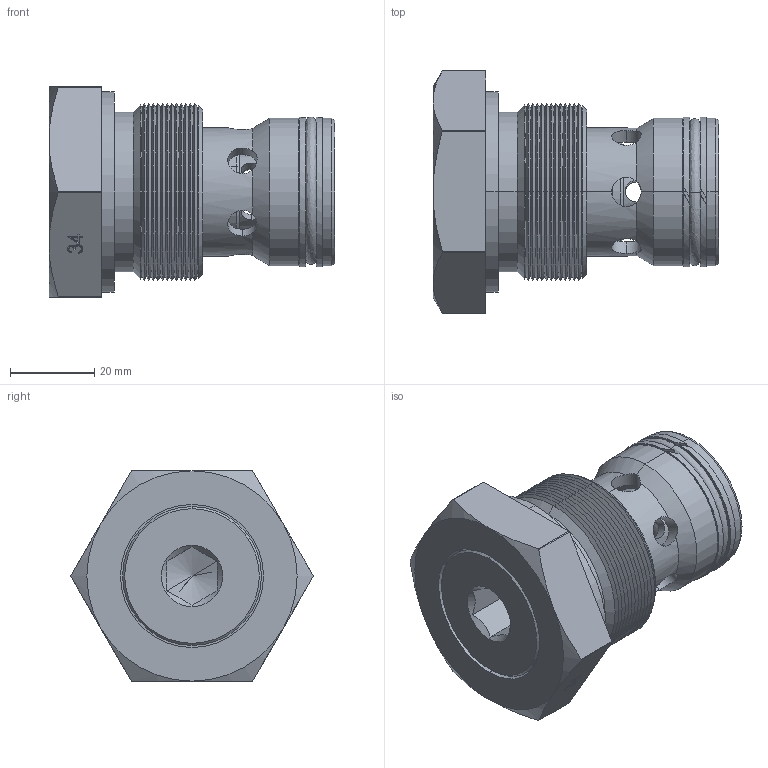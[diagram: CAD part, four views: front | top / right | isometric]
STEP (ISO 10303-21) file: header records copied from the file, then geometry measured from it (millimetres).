
FILE_DESCRIPTION (( 'STEP AP214' ), '1' );
FILE_NAME ('245-6-34.STEP', '2015-05-15T15:11:08', ( '' ), ( '' ), 'SwSTEP 2.0', 'SolidWorks 2014', '' );
FILE_SCHEMA (( 'AUTOMOTIVE_DESIGN' ));
Length unit declared in the file: millimetre
Products named in the file (1): 245-6-34
Bounding box: 68 x 57.6 x 50 mm (x, y, z)
Surface area: 20984.3 mm2 (no closed solid volume)
Topology: 0 solids, 9 shells, 278 faces, 753 edges, 475 vertices
Faces by surface type: plane 97, cone 80, cylinder 62, bspline 39
Entity records: 15034 total; most frequent: CARTESIAN_POINT 5374, ORIENTED_EDGE 1370, DIRECTION 1243, EDGE_CURVE 751, VERTEX_POINT 475, AXIS2_PLACEMENT_3D 416, LINE 411, VECTOR 411
